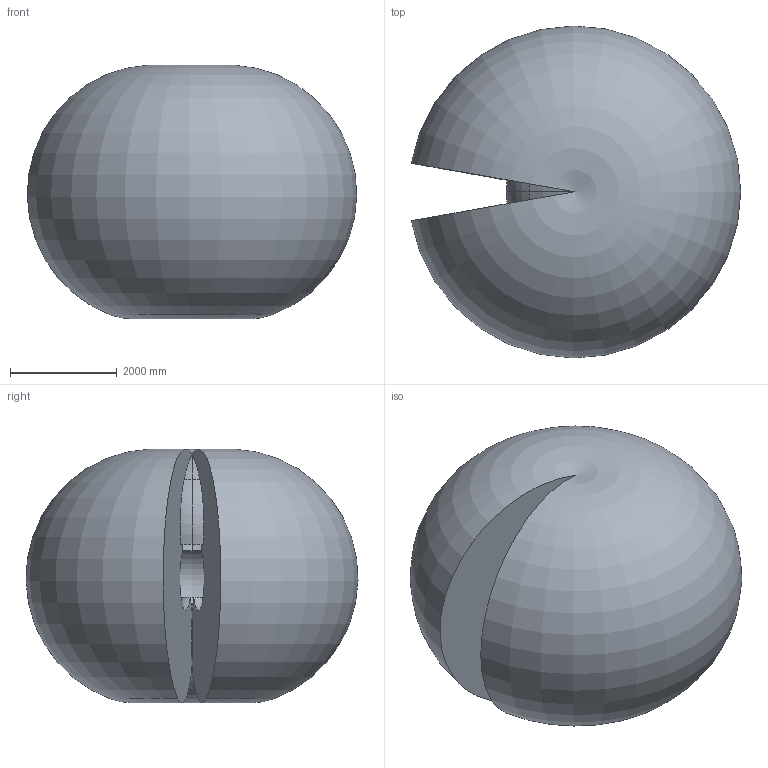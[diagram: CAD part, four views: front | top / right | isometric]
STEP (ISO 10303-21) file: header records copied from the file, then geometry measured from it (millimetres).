
FILE_DESCRIPTION (( 'STEP AP214' ), '1' );
FILE_NAME ('IRB6730S_270kg-310_OC_00_Working-envelope.step', '2026-05-26T10:36:33', ( '' ), ( '' ), 'SwSTEP 2.0', 'SolidWorks 2024', '' );
FILE_SCHEMA (( 'AUTOMOTIVE_DESIGN' ));
Length unit declared in the file: millimetre
Products named in the file (1): IRB6730S_270kg-310_OC_00_Working-envelope
Bounding box: 6160.27 x 6207.01 x 4742.53 mm (x, y, z)
Volume: 93253697652.2 mm3; surface area: 141828314.9 mm2
Topology: 1 solids, 1 shells, 22 faces, 54 edges, 31 vertices
Faces by surface type: torus 15, plane 4, cylinder 2, bspline 1
Entity records: 1369 total; most frequent: CARTESIAN_POINT 857, DIRECTION 108, ORIENTED_EDGE 102, AXIS2_PLACEMENT_3D 53, EDGE_CURVE 51, CIRCLE 31, VERTEX_POINT 31, EDGE_LOOP 22
